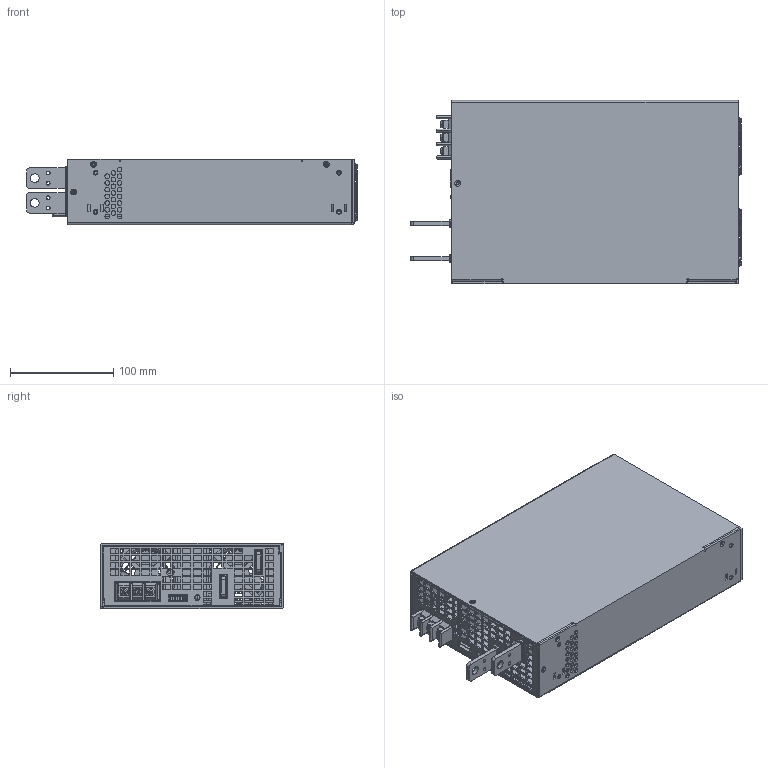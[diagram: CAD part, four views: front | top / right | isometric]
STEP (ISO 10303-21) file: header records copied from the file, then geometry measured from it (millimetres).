
FILE_DESCRIPTION(('Creo Elements/Direct Modeling STEP Export'),'2;1');
FILE_NAME('SE-1500.stp','2017-11-28T16:36:26',(''),(''),'PTC Creo Elements/Direct Modeling STEP processor for AP214 (Solid Model)','PTC Creo Elements/Direct Modeling 19.0 09-May-2014 (C) Parametric Technology GmbH','');
FILE_SCHEMA(('AUTOMOTIVE_DESIGN { 1 0 10303 214 1 1 1 1 }'));
Length unit declared in the file: millimetre
Products named in the file (20): JS100107; ¯¥£\.1.2; ¯¥£\.1.1; fan_a.1; FAN; FAN_4715KL40WB30_2; FAN-ALL.1; ÙñÛ¯; ÇÀÛy; ¯¥£\.1; CU1.1.2; CU1.1.2.1; pcb.1; ˋ°Ûy; M3-7L.1.2; ff.1.1.1.1.1.1; ÊU£\base; ÊW£\COVER; pcb; SE-1500
Assembly tree (29 placements, depth 5):
  SE-1500
    pcb
      ÊW£\COVER
      ÊU£\base
        ff.1.1.1.1.1.1  x4
        M3-7L.1.2  x6
        ˋ°Ûy
      pcb.1
      CU1.1.2.1
      CU1.1.2
      ¯¥£\.1
      ÇÀÛy
      ÙñÛ¯
        FAN-ALL.1  x2
          FAN_4715KL40WB30_2
          FAN
        fan_a.1  x2
      ¯¥£\.1.1
      ¯¥£\.1.2
    JS100107
Bounding box: 321.24 x 177.8 x 63.5 mm (x, y, z)
Volume: 412346 mm3; surface area: 451408.5 mm2
Topology: 21 solids, 23 shells, 2376 faces, 6605 edges, 4232 vertices
Faces by surface type: plane 1278, cylinder 660, torus 194, bspline 120, cone 100, sphere 24
Entity records: 76840 total; most frequent: CARTESIAN_POINT 29368, ORIENTED_EDGE 10302, DIRECTION 8560, EDGE_CURVE 5154, VERTEX_POINT 3298, VECTOR 3246, LINE 3246, AXIS2_PLACEMENT_3D 2657
